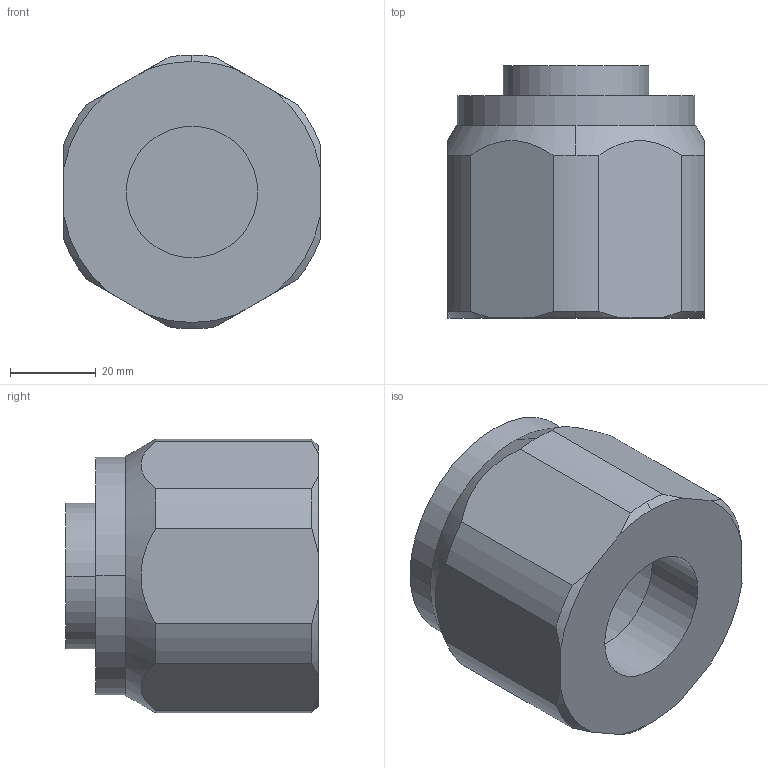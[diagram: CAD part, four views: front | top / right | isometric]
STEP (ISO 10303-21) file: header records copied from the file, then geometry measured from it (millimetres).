
FILE_DESCRIPTION (( 'STEP AP214' ), '1' );
FILE_NAME ('SILVENT 730 C.STEP', '2015-06-11T08:27:07', ( '' ), ( '' ), 'SwSTEP 2.0', 'SolidWorks 2013', '' );
FILE_SCHEMA (( 'AUTOMOTIVE_DESIGN' ));
Length unit declared in the file: millimetre
Products named in the file (1): SILVENT 730 C
Bounding box: 60 x 59 x 64 mm (x, y, z)
Volume: 92295.6 mm3; surface area: 25489.1 mm2
Topology: 1 solids, 1 shells, 51 faces, 119 edges, 79 vertices
Faces by surface type: cylinder 25, plane 17, cone 9
Entity records: 1634 total; most frequent: CARTESIAN_POINT 400, DIRECTION 266, ORIENTED_EDGE 238, EDGE_CURVE 119, AXIS2_PLACEMENT_3D 113, VERTEX_POINT 79, CIRCLE 61, EDGE_LOOP 60
